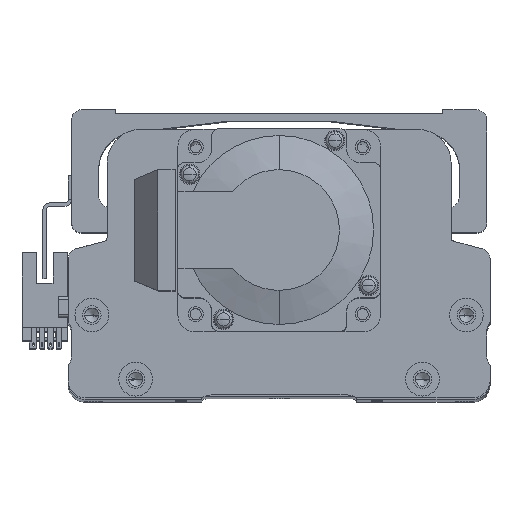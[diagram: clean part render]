
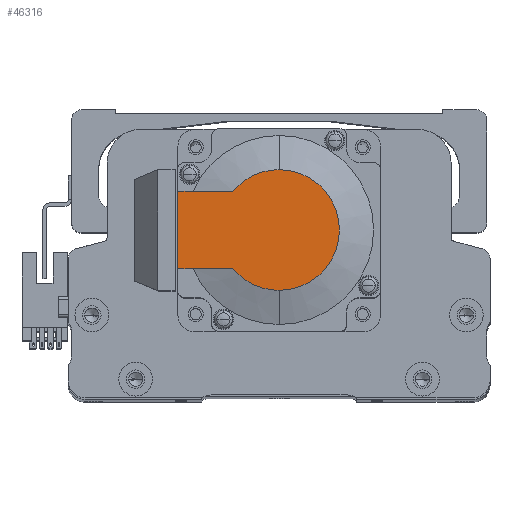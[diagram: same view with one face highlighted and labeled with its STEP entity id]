
A CAD part, top view. The second image highlights one B-rep face of the part: STEP entity #46316.
In plain terms, the highlighted planar face has unit normal (0, 0, 1) as drawn and (-1, 0, 0) by its records, which use the part's own axes.
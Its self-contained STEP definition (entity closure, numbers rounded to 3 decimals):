
#781 = CARTESIAN_POINT ( 'NONE',  ( -118.5, 0., -17.881 ) ) ;
#1363 = EDGE_CURVE ( 'NONE', #43718, #39848, #2008, .T. ) ;
#2008 = CIRCLE ( 'NONE', #43947, 17.881 ) ;
#2880 = CARTESIAN_POINT ( 'NONE',  ( -118.5, -8.941, -11.45 ) ) ;
#3168 = CARTESIAN_POINT ( 'NONE',  ( -118.5, 0., 0. ) ) ;
#3172 = DIRECTION ( 'NONE',  ( 0., 0., 1. ) ) ;
#3603 = LINE ( 'NONE', #2880, #23434 ) ;
#3917 = EDGE_CURVE ( 'NONE', #39848, #22024, #28386, .T. ) ;
#4187 = CARTESIAN_POINT ( 'NONE',  ( -118.5, 0., 0. ) ) ;
#4333 = CARTESIAN_POINT ( 'NONE',  ( -118.5, 0., 0. ) ) ;
#5209 = CARTESIAN_POINT ( 'NONE',  ( -118.5, -8.941, 0. ) ) ;
#6872 = DIRECTION ( 'NONE',  ( 0., -1., 0. ) ) ;
#7164 = DIRECTION ( 'NONE',  ( 0., 0., -1. ) ) ;
#7596 = EDGE_CURVE ( 'NONE', #22024, #42588, #50094, .T. ) ;
#8187 = DIRECTION ( 'NONE',  ( 0., 0., -1. ) ) ;
#8336 = DIRECTION ( 'NONE',  ( 0., 0., -1. ) ) ;
#8512 = CARTESIAN_POINT ( 'NONE',  ( -118.5, 13.735, -11.45 ) ) ;
#9191 = DIRECTION ( 'NONE',  ( 0., 0., 1. ) ) ;
#11487 = CARTESIAN_POINT ( 'NONE',  ( -118.5, 0., 11.45 ) ) ;
#12992 = EDGE_CURVE ( 'NONE', #42509, #42588, #17811, .T. ) ;
#14268 = AXIS2_PLACEMENT_3D ( 'NONE', #5209, #32883, #9191 ) ;
#17811 = LINE ( 'NONE', #11487, #48119 ) ;
#18108 = EDGE_CURVE ( 'NONE', #27516, #42509, #20816, .T. ) ;
#18943 = CARTESIAN_POINT ( 'NONE',  ( -118.5, 30., 25. ) ) ;
#20816 = LINE ( 'NONE', #18943, #51135 ) ;
#21370 = CARTESIAN_POINT ( 'NONE',  ( -118.5, 30., -11.45 ) ) ;
#22024 = VERTEX_POINT ( 'NONE', #29881 ) ;
#22154 = ORIENTED_EDGE ( 'NONE', *, *, #12992, .F. ) ;
#22588 = ORIENTED_EDGE ( 'NONE', *, *, #3917, .T. ) ;
#23434 = VECTOR ( 'NONE', #6872, 1000. ) ;
#25415 = ORIENTED_EDGE ( 'NONE', *, *, #1363, .T. ) ;
#27516 = VERTEX_POINT ( 'NONE', #21370 ) ;
#27963 = AXIS2_PLACEMENT_3D ( 'NONE', #4333, #32031, #8336 ) ;
#28386 = CIRCLE ( 'NONE', #41477, 17.881 ) ;
#28728 = PLANE ( 'NONE',  #14268 ) ;
#29881 = CARTESIAN_POINT ( 'NONE',  ( -118.5, 0., 17.881 ) ) ;
#30847 = DIRECTION ( 'NONE',  ( -1., 0., 0. ) ) ;
#31111 = FACE_OUTER_BOUND ( 'NONE', #39416, .T. ) ;
#31895 = DIRECTION ( 'NONE',  ( -1., 0., 0. ) ) ;
#32031 = DIRECTION ( 'NONE',  ( -1., 0., 0. ) ) ;
#32883 = DIRECTION ( 'NONE',  ( -1., 0., 0. ) ) ;
#35195 = DIRECTION ( 'NONE',  ( 0., -1., 0. ) ) ;
#35506 = ORIENTED_EDGE ( 'NONE', *, *, #7596, .T. ) ;
#36624 = ORIENTED_EDGE ( 'NONE', *, *, #48397, .T. ) ;
#39416 = EDGE_LOOP ( 'NONE', ( #36624, #25415, #22588, #35506, #22154, #42679 ) ) ;
#39848 = VERTEX_POINT ( 'NONE', #781 ) ;
#41477 = AXIS2_PLACEMENT_3D ( 'NONE', #4187, #31895, #8187 ) ;
#42509 = VERTEX_POINT ( 'NONE', #46528 ) ;
#42588 = VERTEX_POINT ( 'NONE', #47038 ) ;
#42679 = ORIENTED_EDGE ( 'NONE', *, *, #18108, .F. ) ;
#43718 = VERTEX_POINT ( 'NONE', #8512 ) ;
#43947 = AXIS2_PLACEMENT_3D ( 'NONE', #3168, #30847, #7164 ) ;
#46316 = ADVANCED_FACE ( 'NONE', ( #31111 ), #28728, .T. ) ;
#46528 = CARTESIAN_POINT ( 'NONE',  ( -118.5, 30., 11.45 ) ) ;
#47038 = CARTESIAN_POINT ( 'NONE',  ( -118.5, 13.735, 11.45 ) ) ;
#48119 = VECTOR ( 'NONE', #35195, 1000. ) ;
#48397 = EDGE_CURVE ( 'NONE', #27516, #43718, #3603, .T. ) ;
#50094 = CIRCLE ( 'NONE', #27963, 17.881 ) ;
#51135 = VECTOR ( 'NONE', #3172, 1000. ) ;
